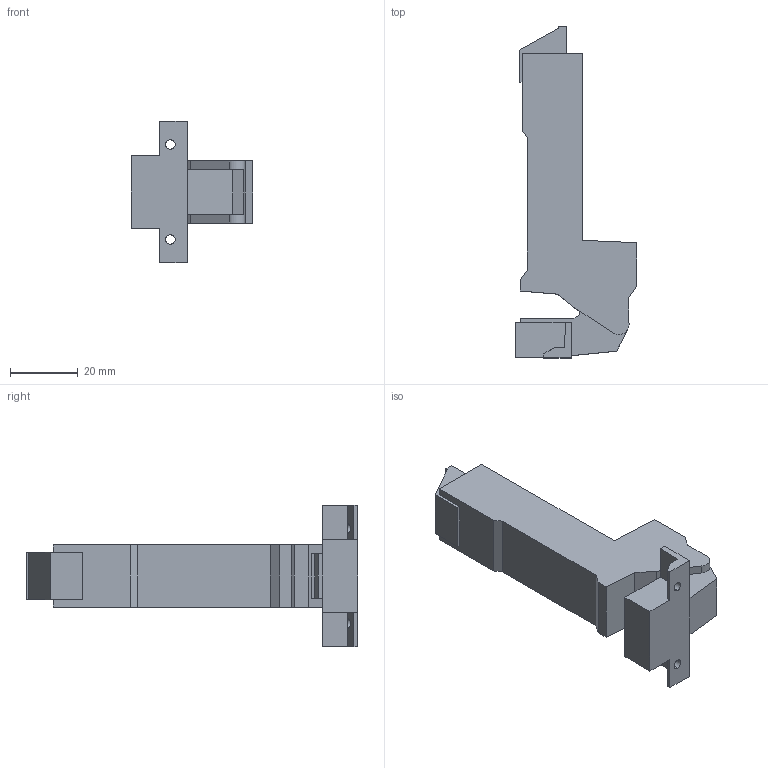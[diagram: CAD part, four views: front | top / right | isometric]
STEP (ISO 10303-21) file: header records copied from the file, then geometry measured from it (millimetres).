
FILE_DESCRIPTION (( 'STEP AP214' ), '1' );
FILE_NAME ('Scharnier TT Click-on 110° AL, K19.step', '2010-12-13T09:56:10', ( 'grass' ), ( '' ), 'SwSTEP 2.0', 'SolidWorks 2010', '' );
FILE_SCHEMA (( 'AUTOMOTIVE_DESIGN' ));
Length unit declared in the file: millimetre
Products named in the file (1): Scharnier TT Click-on 110° AL, K19
Bounding box: 35.75 x 97.8 x 41.8 mm (x, y, z)
Volume: 36394.3 mm3; surface area: 10195.8 mm2
Topology: 1 solids, 1 shells, 66 faces, 189 edges, 126 vertices
Faces by surface type: plane 54, cylinder 12
Entity records: 2179 total; most frequent: CARTESIAN_POINT 400, ORIENTED_EDGE 378, DIRECTION 341, EDGE_CURVE 189, LINE 159, VECTOR 159, VERTEX_POINT 126, AXIS2_PLACEMENT_3D 91
